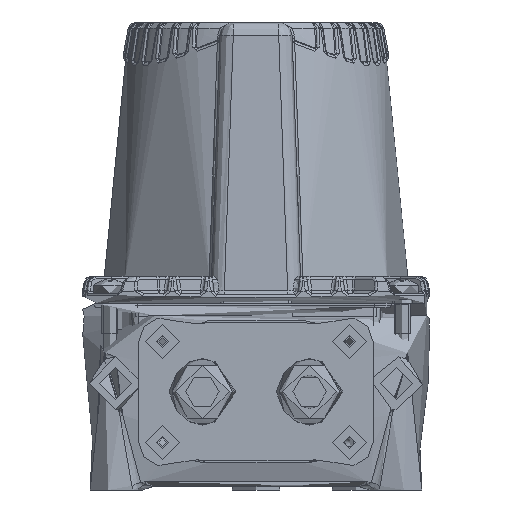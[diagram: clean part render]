
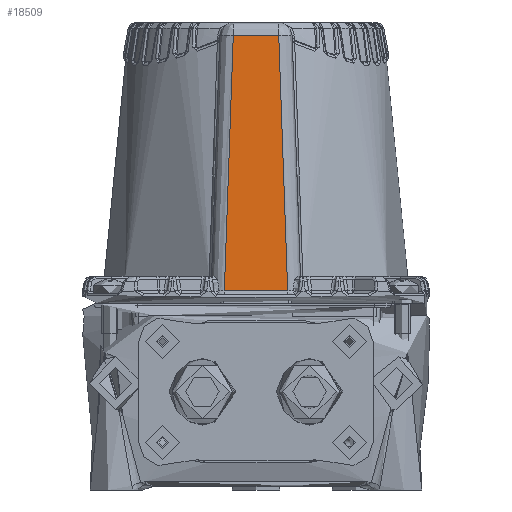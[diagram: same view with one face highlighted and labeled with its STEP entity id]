
A CAD part, front view. The second image highlights one B-rep face of the part: STEP entity #18509.
In plain terms, the highlighted planar face has unit normal (0, -0.999, 0.035).
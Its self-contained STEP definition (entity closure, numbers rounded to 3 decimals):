
#13071=PLANE('',#96911);
#18509=ADVANCED_FACE('',(#24068),#13071,.F.);
#24068=FACE_OUTER_BOUND('',#29252,.T.);
#29252=EDGE_LOOP('',(#43858,#43859,#43860,#43861));
#43858=ORIENTED_EDGE('',*,*,#71186,.T.);
#43859=ORIENTED_EDGE('',*,*,#71151,.T.);
#43860=ORIENTED_EDGE('',*,*,#71178,.T.);
#43861=ORIENTED_EDGE('',*,*,#71171,.T.);
#62189=VERTEX_POINT('',#137170);
#62191=VERTEX_POINT('',#137187);
#62200=VERTEX_POINT('',#137315);
#62201=VERTEX_POINT('',#137317);
#71151=EDGE_CURVE('',#62189,#62191,#83389,.T.);
#71171=EDGE_CURVE('',#62201,#62200,#83393,.T.);
#71178=EDGE_CURVE('',#62191,#62201,#83395,.T.);
#71186=EDGE_CURVE('',#62200,#62189,#83401,.T.);
#83389=LINE('',#137188,#89072);
#83393=LINE('',#137316,#89076);
#83395=LINE('',#137330,#89078);
#83401=LINE('',#137343,#89084);
#89072=VECTOR('',#101928,1.);
#89076=VECTOR('',#101958,1.);
#89078=VECTOR('',#101976,1.);
#89084=VECTOR('',#101992,1.);
#96911=AXIS2_PLACEMENT_3D('',#195408,#105949,#105950);
#101928=DIRECTION('',(1.,0.,0.));
#101958=DIRECTION('',(-1.,0.,0.));
#101976=DIRECTION('',(-0.035,0.034,0.999));
#101992=DIRECTION('',(-0.035,-0.034,-0.999));
#105949=DIRECTION('',(0.,0.999,-0.034));
#105950=DIRECTION('',(0.,-0.034,-0.999));
#137170=CARTESIAN_POINT('',(-4.741,-24.7,-24.882));
#137187=CARTESIAN_POINT('',(4.741,-24.7,-24.882));
#137188=CARTESIAN_POINT('',(4.758,-24.7,-24.882));
#137315=CARTESIAN_POINT('',(-3.405,-23.38,13.369));
#137316=CARTESIAN_POINT('',(0.,-23.38,13.369));
#137317=CARTESIAN_POINT('',(3.405,-23.38,13.369));
#137330=CARTESIAN_POINT('',(3.34,-23.316,15.23));
#137343=CARTESIAN_POINT('',(-4.659,-24.619,-22.536));
#195408=CARTESIAN_POINT('',(0.,-24.625,-22.698));
